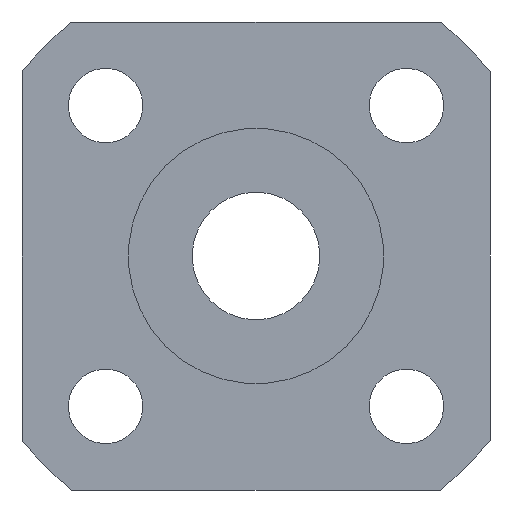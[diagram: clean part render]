
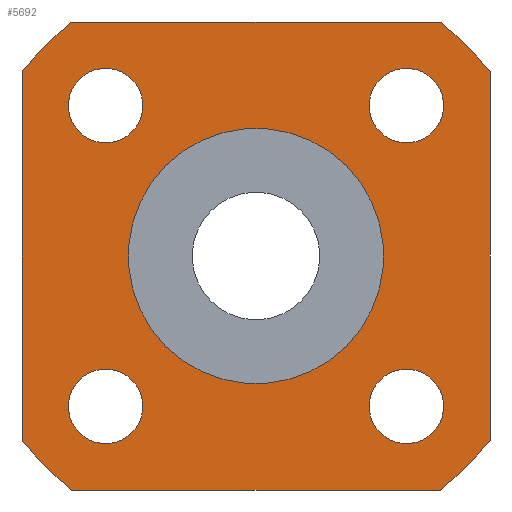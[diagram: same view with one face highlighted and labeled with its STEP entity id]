
A CAD part, left-side view. The second image highlights one B-rep face of the part: STEP entity #5692.
In plain terms, the highlighted planar face has unit normal (-1, 0, 0).
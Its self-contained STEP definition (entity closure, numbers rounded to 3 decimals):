
#111=CIRCLE('',#6043,14.);
#112=CIRCLE('',#6045,14.);
#113=CIRCLE('',#6047,14.);
#115=CIRCLE('',#6050,6.);
#117=CIRCLE('',#6055,14.);
#118=CIRCLE('',#6056,1.75);
#119=CIRCLE('',#6057,1.75);
#120=CIRCLE('',#6058,1.75);
#121=CIRCLE('',#6059,1.75);
#534=ORIENTED_EDGE('',*,*,#2178,.T.);
#535=ORIENTED_EDGE('',*,*,#2169,.F.);
#536=ORIENTED_EDGE('',*,*,#2179,.T.);
#537=ORIENTED_EDGE('',*,*,#2172,.F.);
#538=ORIENTED_EDGE('',*,*,#2180,.T.);
#539=ORIENTED_EDGE('',*,*,#2181,.F.);
#540=ORIENTED_EDGE('',*,*,#2182,.T.);
#541=ORIENTED_EDGE('',*,*,#2167,.F.);
#542=ORIENTED_EDGE('',*,*,#2183,.F.);
#543=ORIENTED_EDGE('',*,*,#2184,.F.);
#544=ORIENTED_EDGE('',*,*,#2185,.F.);
#545=ORIENTED_EDGE('',*,*,#2186,.F.);
#546=ORIENTED_EDGE('',*,*,#2176,.T.);
#2167=EDGE_CURVE('',#2991,#2992,#111,.T.);
#2169=EDGE_CURVE('',#2993,#2994,#112,.T.);
#2172=EDGE_CURVE('',#2995,#2996,#113,.T.);
#2176=EDGE_CURVE('',#2998,#2998,#115,.T.);
#2178=EDGE_CURVE('',#2991,#2994,#3493,.T.);
#2179=EDGE_CURVE('',#2993,#2996,#3494,.T.);
#2180=EDGE_CURVE('',#2995,#3000,#3495,.T.);
#2181=EDGE_CURVE('',#3001,#3000,#117,.T.);
#2182=EDGE_CURVE('',#3001,#2992,#3496,.T.);
#2183=EDGE_CURVE('',#3002,#3002,#118,.T.);
#2184=EDGE_CURVE('',#3003,#3003,#119,.T.);
#2185=EDGE_CURVE('',#3004,#3004,#120,.T.);
#2186=EDGE_CURVE('',#3005,#3005,#121,.T.);
#2991=VERTEX_POINT('',#8944);
#2992=VERTEX_POINT('',#8946);
#2993=VERTEX_POINT('',#8950);
#2994=VERTEX_POINT('',#8951);
#2995=VERTEX_POINT('',#8956);
#2996=VERTEX_POINT('',#8957);
#2998=VERTEX_POINT('',#8964);
#3000=VERTEX_POINT('',#8973);
#3001=VERTEX_POINT('',#8975);
#3002=VERTEX_POINT('',#8978);
#3003=VERTEX_POINT('',#8980);
#3004=VERTEX_POINT('',#8982);
#3005=VERTEX_POINT('',#8984);
#3493=LINE('',#8970,#4158);
#3494=LINE('',#8971,#4159);
#3495=LINE('',#8972,#4160);
#3496=LINE('',#8976,#4161);
#4158=VECTOR('',#6582,1000.);
#4159=VECTOR('',#6583,1000.);
#4160=VECTOR('',#6584,1000.);
#4161=VECTOR('',#6587,1000.);
#4675=EDGE_LOOP('',(#534,#535,#536,#537,#538,#539,#540,#541));
#4676=EDGE_LOOP('',(#542));
#4677=EDGE_LOOP('',(#543));
#4678=EDGE_LOOP('',(#544));
#4679=EDGE_LOOP('',(#545));
#4680=EDGE_LOOP('',(#546));
#5080=FACE_BOUND('',#4675,.T.);
#5081=FACE_BOUND('',#4676,.T.);
#5082=FACE_BOUND('',#4677,.T.);
#5083=FACE_BOUND('',#4678,.T.);
#5084=FACE_BOUND('',#4679,.T.);
#5085=FACE_BOUND('',#4680,.T.);
#5435=PLANE('',#6054);
#5692=ADVANCED_FACE('',(#5080,#5081,#5082,#5083,#5084,#5085),#5435,.F.);
#6043=AXIS2_PLACEMENT_3D('',#8945,#6553,#6554);
#6045=AXIS2_PLACEMENT_3D('',#8949,#6558,#6559);
#6047=AXIS2_PLACEMENT_3D('',#8955,#6564,#6565);
#6050=AXIS2_PLACEMENT_3D('',#8963,#6572,#6573);
#6054=AXIS2_PLACEMENT_3D('',#8969,#6580,#6581);
#6055=AXIS2_PLACEMENT_3D('',#8974,#6585,#6586);
#6056=AXIS2_PLACEMENT_3D('',#8977,#6588,#6589);
#6057=AXIS2_PLACEMENT_3D('',#8979,#6590,#6591);
#6058=AXIS2_PLACEMENT_3D('',#8981,#6592,#6593);
#6059=AXIS2_PLACEMENT_3D('',#8983,#6594,#6595);
#6553=DIRECTION('',(1.,0.,0.));
#6554=DIRECTION('',(0.,0.707,-0.707));
#6558=DIRECTION('',(1.,0.,0.));
#6559=DIRECTION('',(0.,0.707,-0.707));
#6564=DIRECTION('',(1.,0.,0.));
#6565=DIRECTION('',(0.,0.707,-0.707));
#6572=DIRECTION('',(1.,0.,0.));
#6573=DIRECTION('',(0.,0.707,-0.707));
#6580=DIRECTION('',(1.,0.,0.));
#6581=DIRECTION('',(0.,0.707,-0.707));
#6582=DIRECTION('',(0.,0.,1.));
#6583=DIRECTION('',(0.,1.,0.));
#6584=DIRECTION('',(0.,0.,-1.));
#6585=DIRECTION('',(1.,0.,0.));
#6586=DIRECTION('',(0.,0.707,-0.707));
#6587=DIRECTION('',(0.,-1.,0.));
#6588=DIRECTION('',(-1.,0.,0.));
#6589=DIRECTION('',(0.,-0.707,0.707));
#6590=DIRECTION('',(-1.,0.,0.));
#6591=DIRECTION('',(0.,-0.707,0.707));
#6592=DIRECTION('',(-1.,0.,0.));
#6593=DIRECTION('',(0.,-0.707,0.707));
#6594=DIRECTION('',(-1.,0.,0.));
#6595=DIRECTION('',(0.,-0.707,0.707));
#8944=CARTESIAN_POINT('',(12.5,-11.,-8.66));
#8945=CARTESIAN_POINT('',(12.5,0.,0.));
#8946=CARTESIAN_POINT('',(12.5,-8.66,-11.));
#8949=CARTESIAN_POINT('',(12.5,0.,0.));
#8950=CARTESIAN_POINT('',(12.5,-8.66,11.));
#8951=CARTESIAN_POINT('',(12.5,-11.,8.66));
#8955=CARTESIAN_POINT('',(12.5,0.,0.));
#8956=CARTESIAN_POINT('',(12.5,11.,8.66));
#8957=CARTESIAN_POINT('',(12.5,8.66,11.));
#8963=CARTESIAN_POINT('',(12.5,0.,0.));
#8964=CARTESIAN_POINT('',(12.5,4.243,-4.243));
#8969=CARTESIAN_POINT('',(12.5,0.,0.));
#8970=CARTESIAN_POINT('',(12.5,-11.,11.));
#8971=CARTESIAN_POINT('',(12.5,11.,11.));
#8972=CARTESIAN_POINT('',(12.5,11.,-11.));
#8973=CARTESIAN_POINT('',(12.5,11.,-8.66));
#8974=CARTESIAN_POINT('',(12.5,0.,0.));
#8975=CARTESIAN_POINT('',(12.5,8.66,-11.));
#8976=CARTESIAN_POINT('',(12.5,-11.,-11.));
#8977=CARTESIAN_POINT('',(12.5,7.071,-7.071));
#8978=CARTESIAN_POINT('',(12.5,5.834,-5.834));
#8979=CARTESIAN_POINT('',(12.5,-7.071,-7.071));
#8980=CARTESIAN_POINT('',(12.5,-8.309,-5.834));
#8981=CARTESIAN_POINT('',(12.5,-7.071,7.071));
#8982=CARTESIAN_POINT('',(12.5,-8.309,8.309));
#8983=CARTESIAN_POINT('',(12.5,7.071,7.071));
#8984=CARTESIAN_POINT('',(12.5,5.834,8.309));
